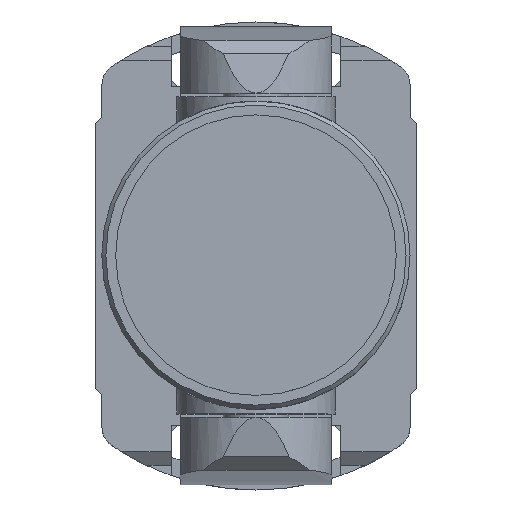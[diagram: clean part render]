
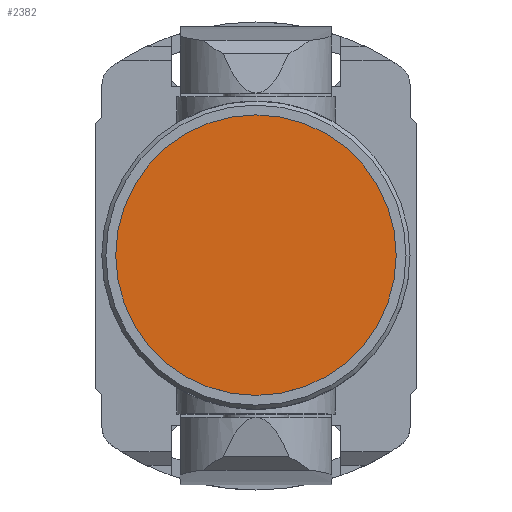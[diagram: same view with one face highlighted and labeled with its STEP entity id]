
A CAD part, top view. The second image highlights one B-rep face of the part: STEP entity #2382.
In plain terms, the highlighted planar face has unit normal (0, 0, 1).
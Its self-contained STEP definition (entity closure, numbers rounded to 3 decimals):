
#1201=ORIENTED_EDGE('',*,*,#1537,.F.);
#1537=EDGE_CURVE('',#1766,#1766,#1823,.T.);
#1766=VERTEX_POINT('',#4126);
#1823=CIRCLE('',#2633,96.);
#1978=EDGE_LOOP('',(#1201));
#2144=FACE_BOUND('',#1978,.T.);
#2255=PLANE('',#2632);
#2382=ADVANCED_FACE('',(#2144),#2255,.F.);
#2632=AXIS2_PLACEMENT_3D('',#4124,#3290,#3291);
#2633=AXIS2_PLACEMENT_3D('',#4125,#3292,#3293);
#3290=DIRECTION('',(0.,0.,-1.));
#3291=DIRECTION('',(-1.,0.,0.));
#3292=DIRECTION('',(0.,0.,-1.));
#3293=DIRECTION('',(-1.,0.,0.));
#4124=CARTESIAN_POINT('',(0.,0.,384.68));
#4125=CARTESIAN_POINT('',(0.,0.,384.68));
#4126=CARTESIAN_POINT('',(-96.,0.,384.68));
